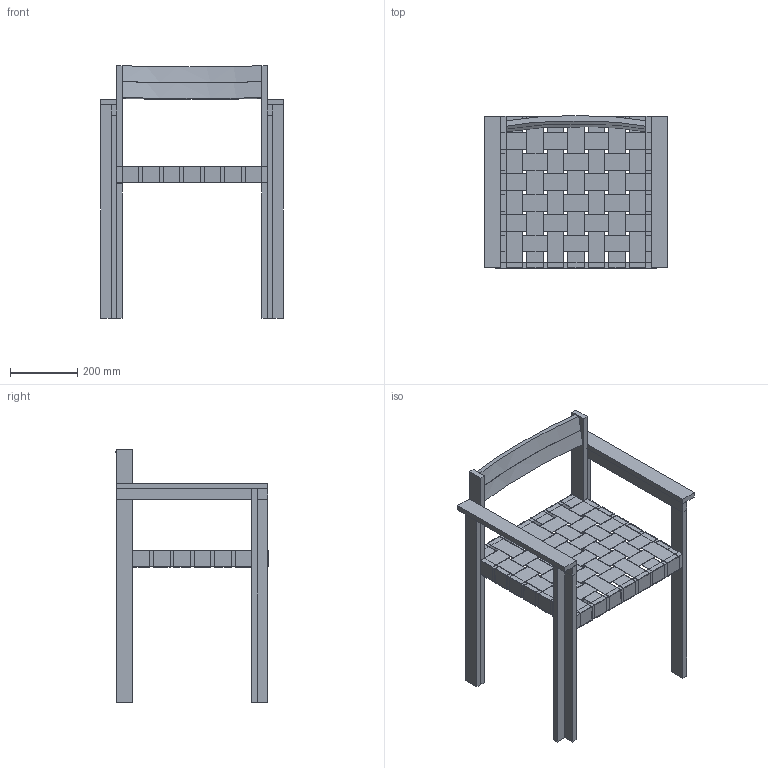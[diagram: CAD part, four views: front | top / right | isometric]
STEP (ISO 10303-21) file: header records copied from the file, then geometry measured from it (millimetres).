
FILE_DESCRIPTION(/* description */ (''),/* implementation_level */ '2;1');
FILE_NAME(/* name */ 'FRAMA_Symmetry-ArmrestChair-3D',/* time_stamp */ '2025-10-27T14:33:30+01:00',/* author */ (''),/* organization */ (''),/* preprocessor_version */ 'ST-DEVELOPER v16.5',/* originating_system */ 'Rhino 7.38',/* authorisation */ '');
FILE_SCHEMA (('CONFIG_CONTROL_DESIGN'));
Length unit declared in the file: millimetre
Products named in the file (1): Document
Bounding box: 544 x 453.89 x 752 mm (x, y, z)
Volume: 7010638.3 mm3; surface area: 1771604 mm2
Topology: 73 solids, 73 shells, 680 faces, 1604 edges, 1072 vertices
Faces by surface type: plane 590, cylinder 84, bspline 6
Entity records: 18075 total; most frequent: CARTESIAN_POINT 6465, ORIENTED_EDGE 3204, EDGE_CURVE 1602, B_SPLINE_CURVE_WITH_KNOTS 1432, VERTEX_POINT 1068, ADVANCED_FACE 680, FACE_OUTER_BOUND 680, EDGE_LOOP 680
